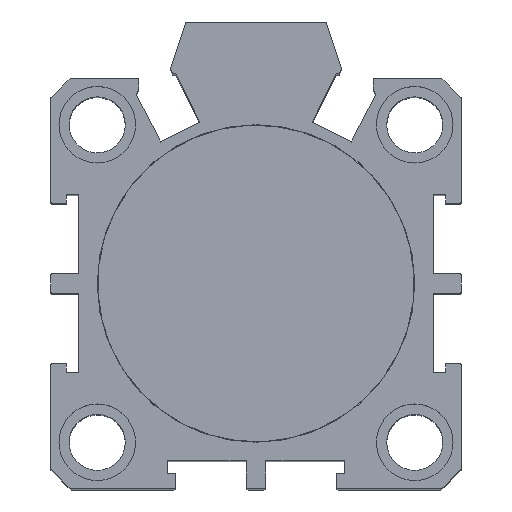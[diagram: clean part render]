
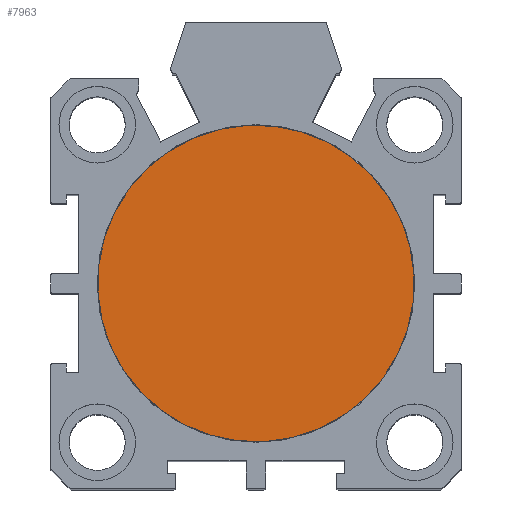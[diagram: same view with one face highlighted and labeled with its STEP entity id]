
A CAD part, top view. The second image highlights one B-rep face of the part: STEP entity #7963.
In plain terms, the highlighted planar face has unit normal (0, 0, 1) as drawn and (-1, 0, 0) by its records, which use the part's own axes.
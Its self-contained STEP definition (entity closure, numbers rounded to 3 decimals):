
#750 = VERTEX_POINT ( 'NONE', #8911 ) ;
#1083 = VERTEX_POINT ( 'NONE', #6762 ) ;
#1156 = CARTESIAN_POINT ( 'NONE',  ( -0.52, 0., 0. ) ) ;
#1873 = DIRECTION ( 'NONE',  ( 0., 0., 1. ) ) ;
#2169 = ORIENTED_EDGE ( 'NONE', *, *, #8924, .T. ) ;
#2222 = PLANE ( 'NONE',  #2304 ) ;
#2304 = AXIS2_PLACEMENT_3D ( 'NONE', #7865, #3659, #8583 ) ;
#2840 = EDGE_LOOP ( 'NONE', ( #2169, #3710 ) ) ;
#2908 = AXIS2_PLACEMENT_3D ( 'NONE', #7583, #3368, #8296 ) ;
#3368 = DIRECTION ( 'NONE',  ( -1., 0., 0. ) ) ;
#3457 = CIRCLE ( 'NONE', #2908, 16.95 ) ;
#3659 = DIRECTION ( 'NONE',  ( -1., 0., 0. ) ) ;
#3710 = ORIENTED_EDGE ( 'NONE', *, *, #8486, .T. ) ;
#3886 = CIRCLE ( 'NONE', #8414, 16.95 ) ;
#6092 = DIRECTION ( 'NONE',  ( -1., 0., 0. ) ) ;
#6762 = CARTESIAN_POINT ( 'NONE',  ( -0.52, 0., -16.95 ) ) ;
#7583 = CARTESIAN_POINT ( 'NONE',  ( -0.52, 0., 0. ) ) ;
#7865 = CARTESIAN_POINT ( 'NONE',  ( -0.52, -17.153, -17.153 ) ) ;
#7963 = ADVANCED_FACE ( 'NONE', ( #8425 ), #2222, .T. ) ;
#8296 = DIRECTION ( 'NONE',  ( 0., 0., 1. ) ) ;
#8414 = AXIS2_PLACEMENT_3D ( 'NONE', #1156, #6092, #1873 ) ;
#8425 = FACE_OUTER_BOUND ( 'NONE', #2840, .T. ) ;
#8486 = EDGE_CURVE ( 'NONE', #1083, #750, #3457, .T. ) ;
#8583 = DIRECTION ( 'NONE',  ( 0., 0., 1. ) ) ;
#8911 = CARTESIAN_POINT ( 'NONE',  ( -0.52, 0., 16.95 ) ) ;
#8924 = EDGE_CURVE ( 'NONE', #750, #1083, #3886, .T. ) ;
